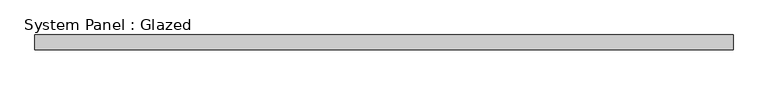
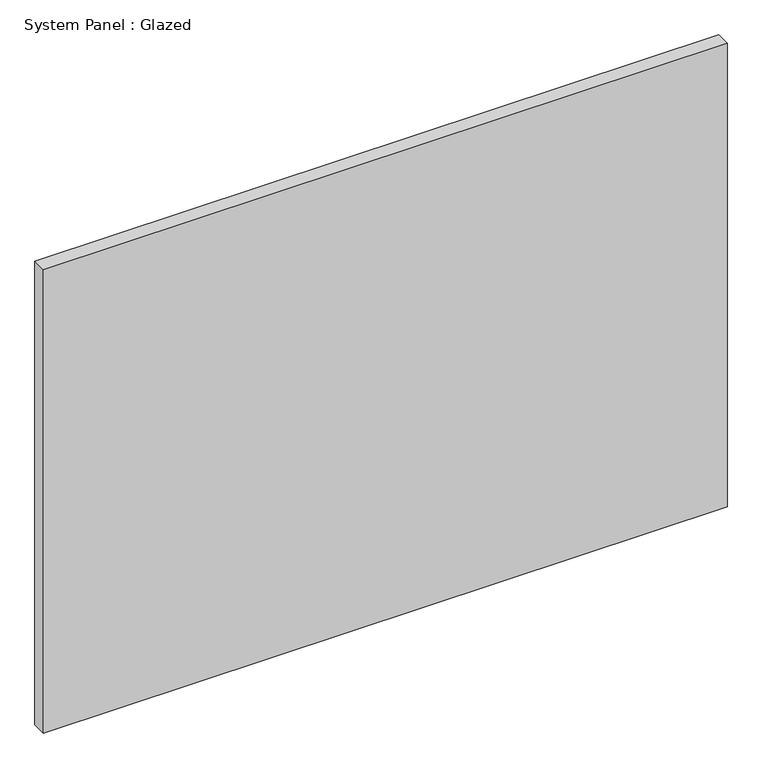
"""IFC4 building model written with IfcOpenShell, lengths in millimetres: plate geometry, System Panel : Glazed."""

from ifc_helpers import new_model, si_unit, origin, origin_with_axes, place, context, project, spatial, polyline, outline, extrude, source, transform, mapped, element, save


def system_panel_glazed_00a161e3(model_context):
    return source(origin(), model_context, "Body", "SweptSolid", [
        extrude(outline(polyline([(593.725, 19.05), (-593.725, 19.05), (-593.725, 44.45), (593.725, 44.45), (593.725, 19.05)])), origin_with_axes(), (0.0, 0.0, 1.0), 850.9),
    ])


if __name__ == "__main__":
    model = new_model("IFC4")
    model_context = context("Model", 3, world=origin())
    ifc_project = project(units=[si_unit("LENGTHUNIT", "METRE", prefix="MILLI")], contexts=[model_context])
    site = spatial("IfcSite", under=ifc_project)
    building = spatial("IfcBuilding", under=site)
    placement = place(None, origin())
    system_panel_glazed_shape = system_panel_glazed_00a161e3(model_context)
    element("IfcPlate", 1, ObjectType="System Panel : Glazed", at=placement, inside=building, context=model_context, shape_type="MappedRepresentation", body=[
        mapped(system_panel_glazed_shape, transform((0.0, 0.0, 0.0), x_axis=(1.0, 0.0, 0.0), y_axis=(0.0, 1.0, 0.0), z_axis=(0.0, 0.0, 1.0))),
    ])
    save(model, "model.ifc")
